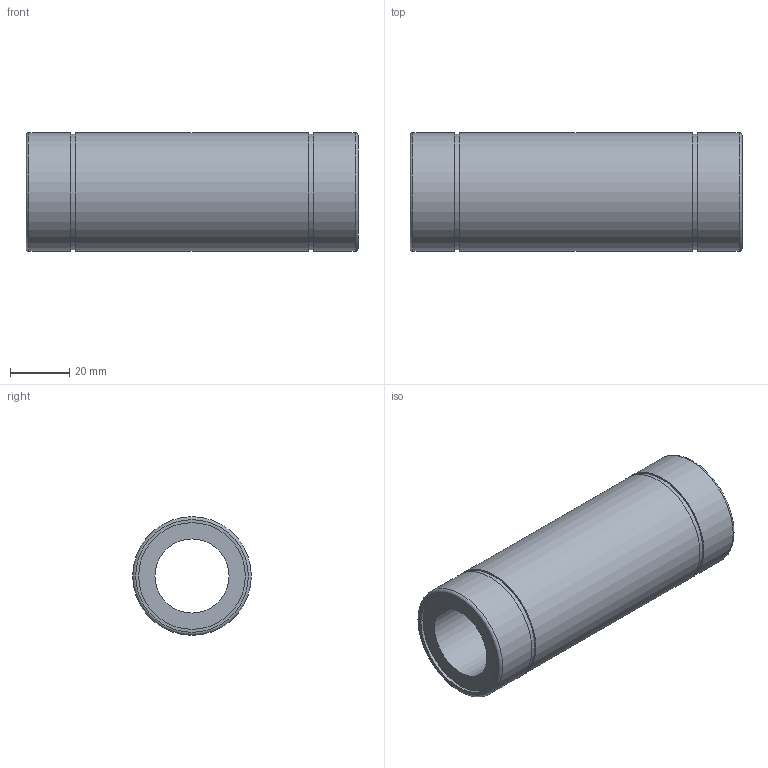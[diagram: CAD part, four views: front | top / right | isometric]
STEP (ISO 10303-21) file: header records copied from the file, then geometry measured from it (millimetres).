
FILE_DESCRIPTION(('STEP AP214'), '1');
FILE_NAME('LML25', '', ('UNSPECIFIED'), ('UNSPECIFIED'), 'ASCON STEP Converter 1.3', 'ASCON Math Kernel', '');
FILE_SCHEMA(('AUTOMOTIVE_DESIGN { 1 0 10303 214 3 1 1}'));
Length unit declared in the file: millimetre
Products named in the file (1): LM25L-UU
Bounding box: 112 x 40 x 40 mm (x, y, z)
Volume: 84428.6 mm3; surface area: 24599.2 mm2
Topology: 1 solids, 1 shells, 18 faces, 28 edges, 18 vertices
Faces by surface type: plane 8, cylinder 8, torus 2
Full cylindrical faces by diameter (mm): 25 x1, 36 x2, 39 x2, 40 x3
Entity records: 556 total; most frequent: DIRECTION 74, CARTESIAN_POINT 55, AXIS2_PLACEMENT_3D 37, EDGE_LOOP 36, ORIENTED_EDGE 36, FACE_OUTER_BOUND 20, COLOUR_RGB 19, FILL_AREA_STYLE_COLOUR 19
